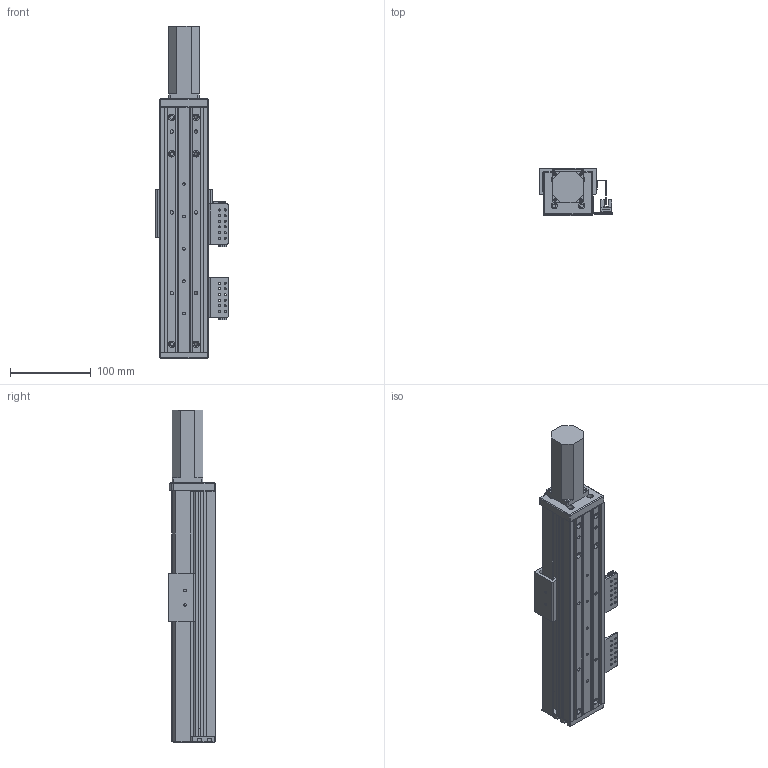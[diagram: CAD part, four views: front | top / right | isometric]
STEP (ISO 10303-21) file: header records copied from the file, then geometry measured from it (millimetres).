
FILE_DESCRIPTION (( 'STEP AP203' ), '1' );
FILE_NAME ('RY60FB-L1210-300-MK.SLDASM_100.step', '2021-02-22T08:25:26', ( '盈信电脑' ), ( '东莞市道滘镇水果街19号' ), 'SwSTEP 2.0', 'SolidWorks 2012', '' );
FILE_SCHEMA (( 'CONFIG_CONTROL_DESIGN' ));
Length unit declared in the file: millimetre
Products named in the file (14): RY60FB-L1210-300-MK.SLDASM_100; RY60FB-674嫖萇耀輸; 覜茼ん674; RY80俋离覜茼え; 侂狟100W; RY60FB綴裔啣; RY60FB前盖板100(M3); RY60FB-感应器674光电安装座; 滅袉蝶18-10; RY60FB-300-奻裔-MK_100; 滅袉蝶18-20; RY60FB-臏賑輸; RY60FB-300-菁釱-MK_100
Assembly tree (18 placements, depth 3):
  RY60FB-L1210-300-MK.SLDASM_100
    RY60FB-300-菁釱-MK_100
    RY60FB-臏賑輸
    滅袉蝶18-20  x2
    滅袉蝶18-10  x2
    RY60FB-300-奻裔-MK_100
    RY60FB前盖板100(M3)
    侂狟100W
    RY60FB綴裔啣
    RY60FB-674嫖萇耀輸
      RY60FB-感应器674光电安装座
      覜茼ん674  x2
    RY80俋离覜茼え
    RY60FB-674嫖萇耀輸
      RY60FB-感应器674光电安装座
      覜茼ん674
Bounding box: 90 x 58.5 x 410.5 mm (x, y, z)
Volume: 525924.7 mm3; surface area: 263425.3 mm2
Topology: 16 solids, 16 shells, 935 faces, 2572 edges, 1659 vertices
Faces by surface type: plane 474, cylinder 394, cone 67
Entity records: 26028 total; most frequent: CARTESIAN_POINT 4901, DIRECTION 4122, ORIENTED_EDGE 4044, EDGE_CURVE 2022, AXIS2_PLACEMENT_3D 1440, VERTEX_POINT 1315, VECTOR 1242, LINE 1242
